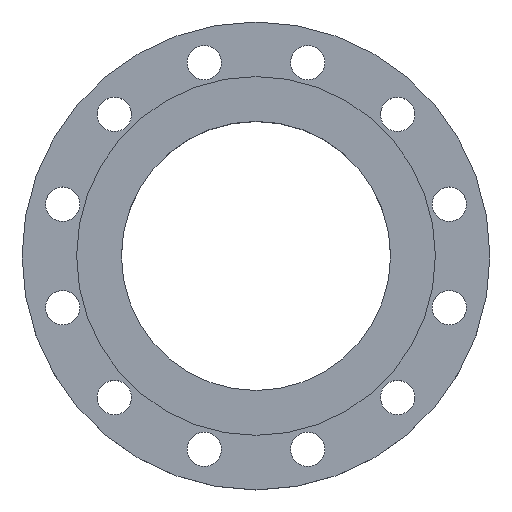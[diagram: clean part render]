
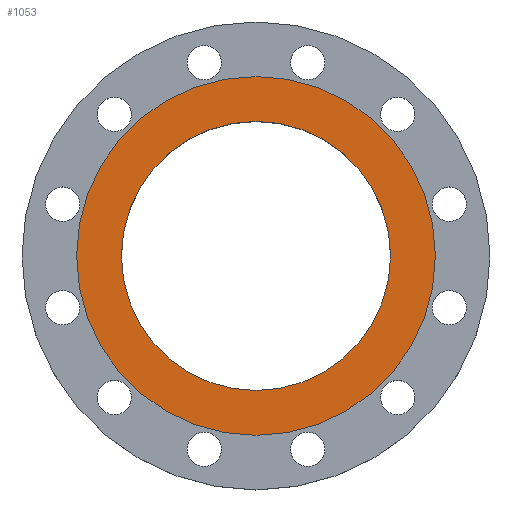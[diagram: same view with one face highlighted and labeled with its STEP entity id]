
A CAD part, top view. The second image highlights one B-rep face of the part: STEP entity #1053.
In plain terms, the highlighted planar face has unit normal (0, 0, 1).
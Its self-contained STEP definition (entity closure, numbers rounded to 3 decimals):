
#7 = AXIS2_PLACEMENT_3D ( 'NONE', #114, #113, #112 ) ;
#29 = CIRCLE ( 'NONE', #7, 129.4 ) ;
#108 = CARTESIAN_POINT ( 'NONE',  ( 172.5, 0., 7.1 ) ) ;
#112 = DIRECTION ( 'NONE',  ( 1., 0., 0. ) ) ;
#113 = DIRECTION ( 'NONE',  ( 0., 0., 1. ) ) ;
#114 = CARTESIAN_POINT ( 'NONE',  ( 0., 0., 7.1 ) ) ;
#243 = EDGE_CURVE ( 'NONE', #1218, #1307, #593, .T. ) ;
#336 = CARTESIAN_POINT ( 'NONE',  ( 129.4, 0., 7.1 ) ) ;
#337 = DIRECTION ( 'NONE',  ( 1., 0., 0. ) ) ;
#338 = DIRECTION ( 'NONE',  ( 0., 0., 1. ) ) ;
#339 = CARTESIAN_POINT ( 'NONE',  ( 172.5, 0., 7.1 ) ) ;
#341 = PLANE ( 'NONE',  #829 ) ;
#342 = FACE_BOUND ( 'NONE', #750, .T. ) ;
#344 = FACE_OUTER_BOUND ( 'NONE', #1134, .T. ) ;
#406 = AXIS2_PLACEMENT_3D ( 'NONE', #439, #438, #437 ) ;
#437 = DIRECTION ( 'NONE',  ( 1., 0., 0. ) ) ;
#438 = DIRECTION ( 'NONE',  ( 0., 0., 1. ) ) ;
#439 = CARTESIAN_POINT ( 'NONE',  ( 0., 0., 7.1 ) ) ;
#468 = EDGE_CURVE ( 'NONE', #1396, #1058, #539, .T. ) ;
#524 = AXIS2_PLACEMENT_3D ( 'NONE', #614, #612, #611 ) ;
#539 = CIRCLE ( 'NONE', #524, 129.4 ) ;
#584 = AXIS2_PLACEMENT_3D ( 'NONE', #681, #680, #679 ) ;
#593 = CIRCLE ( 'NONE', #584, 172.5 ) ;
#611 = DIRECTION ( 'NONE',  ( 1., 0., 0. ) ) ;
#612 = DIRECTION ( 'NONE',  ( 0., 0., 1. ) ) ;
#614 = CARTESIAN_POINT ( 'NONE',  ( 0., 0., 7.1 ) ) ;
#679 = DIRECTION ( 'NONE',  ( 1., 0., 0. ) ) ;
#680 = DIRECTION ( 'NONE',  ( 0., 0., 1. ) ) ;
#681 = CARTESIAN_POINT ( 'NONE',  ( 0., 0., 7.1 ) ) ;
#726 = CIRCLE ( 'NONE', #406, 172.5 ) ;
#742 = ORIENTED_EDGE ( 'NONE', *, *, #992, .T. ) ;
#747 = ORIENTED_EDGE ( 'NONE', *, *, #468, .F. ) ;
#749 = ORIENTED_EDGE ( 'NONE', *, *, #1207, .F. ) ;
#750 = EDGE_LOOP ( 'NONE', ( #749, #747 ) ) ;
#752 = ORIENTED_EDGE ( 'NONE', *, *, #243, .T. ) ;
#829 = AXIS2_PLACEMENT_3D ( 'NONE', #339, #338, #337 ) ;
#992 = EDGE_CURVE ( 'NONE', #1307, #1218, #726, .T. ) ;
#1004 = CARTESIAN_POINT ( 'NONE',  ( -172.5, 0., 7.1 ) ) ;
#1013 = CARTESIAN_POINT ( 'NONE',  ( -129.4, 0., 7.1 ) ) ;
#1053 = ADVANCED_FACE ( 'NONE', ( #344, #342 ), #341, .T. ) ;
#1058 = VERTEX_POINT ( 'NONE', #336 ) ;
#1134 = EDGE_LOOP ( 'NONE', ( #752, #742 ) ) ;
#1207 = EDGE_CURVE ( 'NONE', #1058, #1396, #29, .T. ) ;
#1218 = VERTEX_POINT ( 'NONE', #108 ) ;
#1307 = VERTEX_POINT ( 'NONE', #1004 ) ;
#1396 = VERTEX_POINT ( 'NONE', #1013 ) ;
